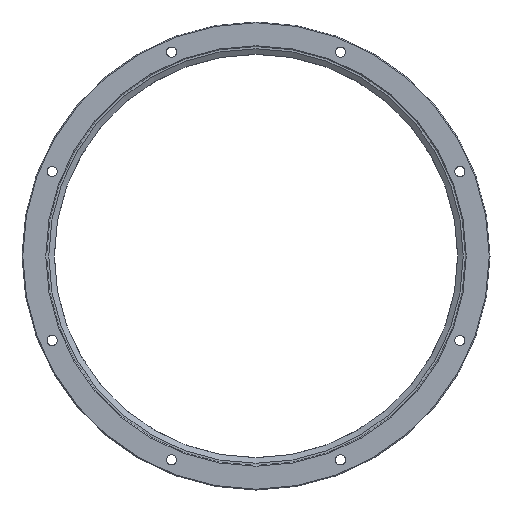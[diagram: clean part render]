
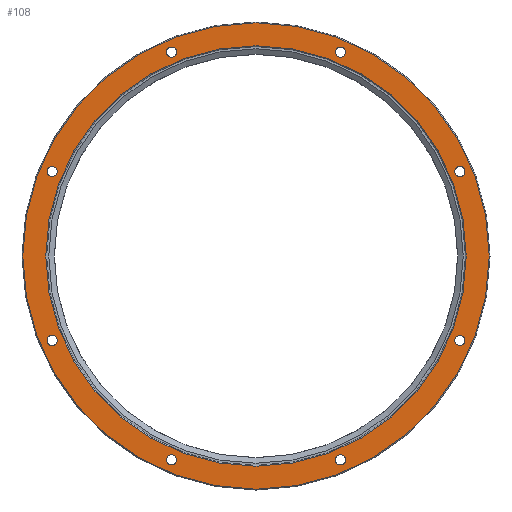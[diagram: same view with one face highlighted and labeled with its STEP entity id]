
A CAD part, front view. The second image highlights one B-rep face of the part: STEP entity #108.
In plain terms, the highlighted planar face has unit normal (0, -1, 0).
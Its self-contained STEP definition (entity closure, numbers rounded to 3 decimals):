
#108=ADVANCED_FACE('',(#183,#184,#185,#186,#187,#188,#189,#190,#191,#192),#193,.T.);
#183=FACE_BOUND('',#307,.T.);
#184=FACE_BOUND('',#308,.T.);
#185=FACE_BOUND('',#309,.T.);
#186=FACE_BOUND('',#310,.T.);
#187=FACE_BOUND('',#311,.T.);
#188=FACE_BOUND('',#312,.T.);
#189=FACE_BOUND('',#313,.T.);
#190=FACE_BOUND('',#314,.T.);
#191=FACE_OUTER_BOUND('',#315,.T.);
#192=FACE_BOUND('',#316,.T.);
#193=PLANE('',#317);
#307=EDGE_LOOP('',(#461));
#308=EDGE_LOOP('',(#462));
#309=EDGE_LOOP('',(#463));
#310=EDGE_LOOP('',(#464));
#311=EDGE_LOOP('',(#465));
#312=EDGE_LOOP('',(#466));
#313=EDGE_LOOP('',(#467));
#314=EDGE_LOOP('',(#468));
#315=EDGE_LOOP('',(#469));
#316=EDGE_LOOP('',(#470));
#317=AXIS2_PLACEMENT_3D('',#471,#472,#473);
#461=ORIENTED_EDGE('',*,*,#580,.F.);
#462=ORIENTED_EDGE('',*,*,#582,.F.);
#463=ORIENTED_EDGE('',*,*,#584,.F.);
#464=ORIENTED_EDGE('',*,*,#586,.F.);
#465=ORIENTED_EDGE('',*,*,#588,.F.);
#466=ORIENTED_EDGE('',*,*,#590,.F.);
#467=ORIENTED_EDGE('',*,*,#592,.F.);
#468=ORIENTED_EDGE('',*,*,#597,.F.);
#469=ORIENTED_EDGE('',*,*,#575,.T.);
#470=ORIENTED_EDGE('',*,*,#576,.T.);
#471=CARTESIAN_POINT('',(108.1,0.0,0.0));
#472=DIRECTION('',(0.0,-1.0,0.0));
#473=DIRECTION('',(0.0,0.0,-1.0));
#575=EDGE_CURVE('',#620,#620,#621,.T.);
#576=EDGE_CURVE('',#622,#622,#623,.F.);
#580=EDGE_CURVE('',#630,#630,#631,.T.);
#582=EDGE_CURVE('',#634,#634,#635,.T.);
#584=EDGE_CURVE('',#638,#638,#639,.T.);
#586=EDGE_CURVE('',#642,#642,#643,.T.);
#588=EDGE_CURVE('',#646,#646,#647,.T.);
#590=EDGE_CURVE('',#650,#650,#651,.T.);
#592=EDGE_CURVE('',#654,#654,#655,.T.);
#597=EDGE_CURVE('',#664,#664,#665,.T.);
#620=VERTEX_POINT('',#708);
#621=CIRCLE('',#709,113.7);
#622=VERTEX_POINT('',#710);
#623=CIRCLE('',#711,102.5);
#630=VERTEX_POINT('',#718);
#631=CIRCLE('',#719,2.5);
#634=VERTEX_POINT('',#722);
#635=CIRCLE('',#723,2.5);
#638=VERTEX_POINT('',#726);
#639=CIRCLE('',#727,2.5);
#642=VERTEX_POINT('',#730);
#643=CIRCLE('',#731,2.5);
#646=VERTEX_POINT('',#734);
#647=CIRCLE('',#735,2.5);
#650=VERTEX_POINT('',#738);
#651=CIRCLE('',#739,2.5);
#654=VERTEX_POINT('',#742);
#655=CIRCLE('',#743,2.5);
#664=VERTEX_POINT('',#752);
#665=CIRCLE('',#753,2.5);
#708=CARTESIAN_POINT('',(0.0,0.0,-113.7));
#709=AXIS2_PLACEMENT_3D('',#797,#798,#799);
#710=CARTESIAN_POINT('',(0.,0.0,-102.5));
#711=AXIS2_PLACEMENT_3D('',#800,#801,#802);
#718=CARTESIAN_POINT('',(-39.409,0.0,101.177));
#719=AXIS2_PLACEMENT_3D('',#812,#813,#814);
#722=CARTESIAN_POINT('',(-99.409,0.0,43.677));
#723=AXIS2_PLACEMENT_3D('',#818,#819,#820);
#726=CARTESIAN_POINT('',(-101.177,0.0,-39.409));
#727=AXIS2_PLACEMENT_3D('',#824,#825,#826);
#730=CARTESIAN_POINT('',(-43.677,0.0,-99.409));
#731=AXIS2_PLACEMENT_3D('',#830,#831,#832);
#734=CARTESIAN_POINT('',(39.409,0.0,-101.177));
#735=AXIS2_PLACEMENT_3D('',#836,#837,#838);
#738=CARTESIAN_POINT('',(99.409,0.0,-43.677));
#739=AXIS2_PLACEMENT_3D('',#842,#843,#844);
#742=CARTESIAN_POINT('',(101.177,0.0,39.409));
#743=AXIS2_PLACEMENT_3D('',#848,#849,#850);
#752=CARTESIAN_POINT('',(43.677,0.0,99.409));
#753=AXIS2_PLACEMENT_3D('',#863,#864,#865);
#797=CARTESIAN_POINT('',(0.0,0.0,0.0));
#798=DIRECTION('',(0.0,-1.0,0.0));
#799=DIRECTION('',(0.0,0.0,-1.0));
#800=CARTESIAN_POINT('',(0.0,0.0,0.0));
#801=DIRECTION('',(0.0,-1.0,0.0));
#802=DIRECTION('',(0.0,0.0,-1.0));
#812=CARTESIAN_POINT('',(-41.177,0.0,99.409));
#813=DIRECTION('',(0.0,-1.0,0.0));
#814=DIRECTION('',(0.707,0.0,0.707));
#818=CARTESIAN_POINT('',(-99.409,0.0,41.177));
#819=DIRECTION('',(0.0,-1.0,0.0));
#820=DIRECTION('',(0.,0.0,1.0));
#824=CARTESIAN_POINT('',(-99.409,0.0,-41.177));
#825=DIRECTION('',(0.0,-1.0,0.0));
#826=DIRECTION('',(-0.707,0.0,0.707));
#830=CARTESIAN_POINT('',(-41.177,0.0,-99.409));
#831=DIRECTION('',(0.0,-1.0,-0.0));
#832=DIRECTION('',(-1.0,0.0,0.));
#836=CARTESIAN_POINT('',(41.177,0.0,-99.409));
#837=DIRECTION('',(0.0,-1.0,-0.0));
#838=DIRECTION('',(-0.707,0.0,-0.707));
#842=CARTESIAN_POINT('',(99.409,0.0,-41.177));
#843=DIRECTION('',(0.0,-1.0,0.0));
#844=DIRECTION('',(0.,0.0,-1.0));
#848=CARTESIAN_POINT('',(99.409,0.0,41.177));
#849=DIRECTION('',(0.0,-1.0,0.0));
#850=DIRECTION('',(0.707,0.0,-0.707));
#863=CARTESIAN_POINT('',(41.177,0.0,99.409));
#864=DIRECTION('',(0.0,-1.0,0.0));
#865=DIRECTION('',(1.0,0.0,0.0));
